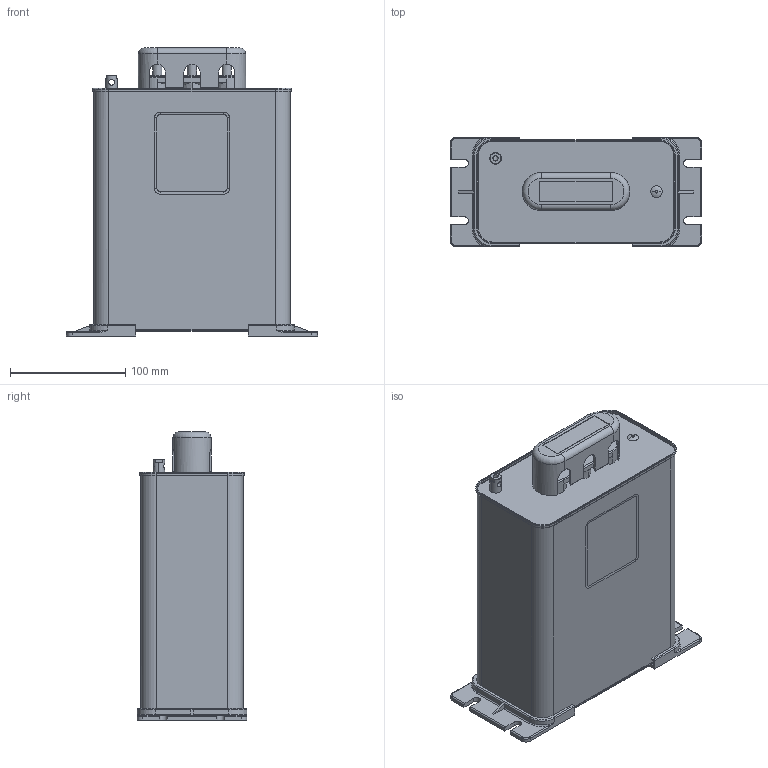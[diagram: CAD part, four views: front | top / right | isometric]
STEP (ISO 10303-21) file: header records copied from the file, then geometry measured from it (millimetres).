
FILE_DESCRIPTION((''),'2;1');
FILE_NAME('2708002400_SW0002','2025-05-06T',('hua.zhang'),(''),'PRO/ENGINEER BY PARAMETRIC TECHNOLOGY CORPORATION, 2017170','PRO/ENGINEER BY PARAMETRIC TECHNOLOGY CORPORATION, 2017170','');
FILE_SCHEMA(('CONFIG_CONTROL_DESIGN'));
Length unit declared in the file: millimetre
Products named in the file (1): 2708002400_SW0002
Bounding box: 217.56 x 95 x 249.62 mm (x, y, z)
Volume: 3172026.3 mm3; surface area: 185852.4 mm2
Topology: 1 solids, 2 shells, 534 faces, 1418 edges, 886 vertices
Faces by surface type: plane 244, cylinder 200, torus 62, cone 10, bspline 8, extrusion 8, sphere 2
Entity records: 18036 total; most frequent: CARTESIAN_POINT 4458, DIRECTION 2890, ORIENTED_EDGE 2836, EDGE_CURVE 1418, AXIS2_PLACEMENT_3D 1004, VERTEX_POINT 886, VECTOR 882, LINE 874
